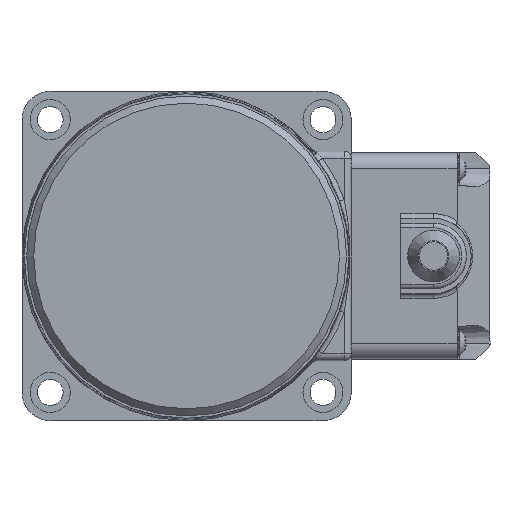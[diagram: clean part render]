
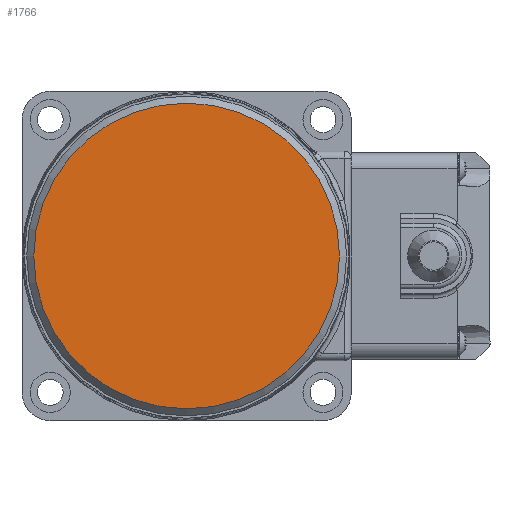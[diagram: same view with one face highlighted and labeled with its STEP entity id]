
A CAD part, left-side view. The second image highlights one B-rep face of the part: STEP entity #1766.
In plain terms, the highlighted planar face has unit normal (-1, 0, 0).
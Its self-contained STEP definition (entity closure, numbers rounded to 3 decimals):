
#1746=CARTESIAN_POINT('',(0.0,32.5,0.0));
#1747=VERTEX_POINT('',#1746);
#1748=CARTESIAN_POINT('',(0.,0.,0.0));
#1749=DIRECTION('',(1.0,0.0,0.0));
#1750=DIRECTION('',(0.0,1.0,0.0));
#1751=AXIS2_PLACEMENT_3D('',#1748,#1749,#1750);
#1752=CIRCLE('',#1751,32.5);
#1753=EDGE_CURVE('',#1747,#1747,#1752,.T.);
#1758=CARTESIAN_POINT('',(0.0,16.25,0.0));
#1759=DIRECTION('',(-1.0,0.0,0.0));
#1760=DIRECTION('',(0.0,0.0,1.0));
#1761=AXIS2_PLACEMENT_3D('',#1758,#1759,#1760);
#1762=PLANE('',#1761);
#1763=ORIENTED_EDGE('',*,*,#1753,.F.);
#1764=EDGE_LOOP('',(#1763));
#1765=FACE_OUTER_BOUND('',#1764,.T.);
#1766=ADVANCED_FACE('',(#1765),#1762,.T.);
